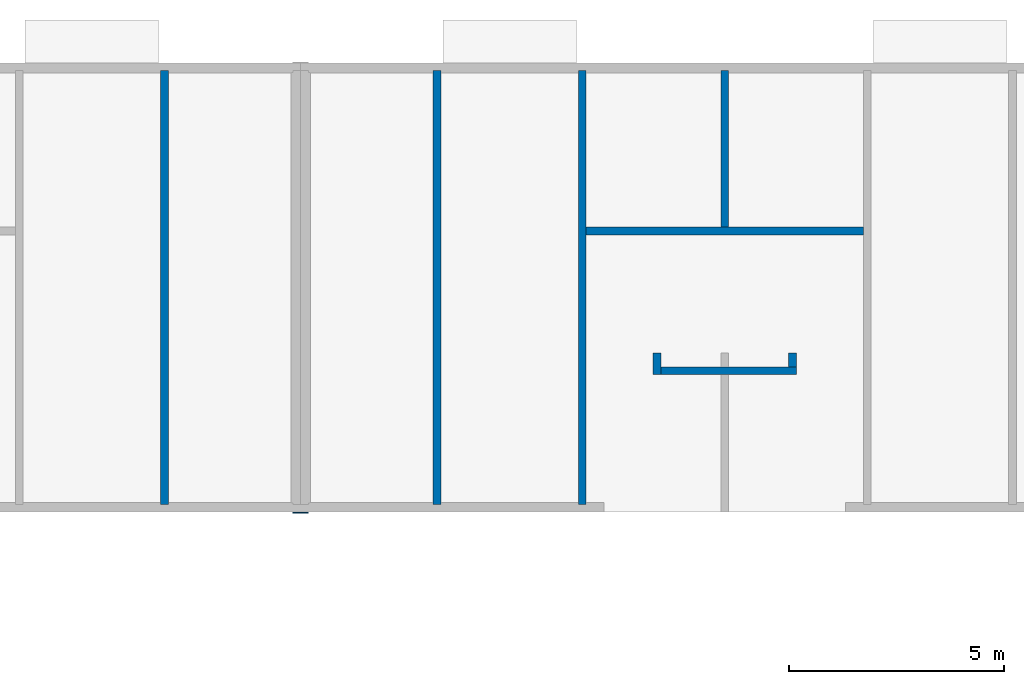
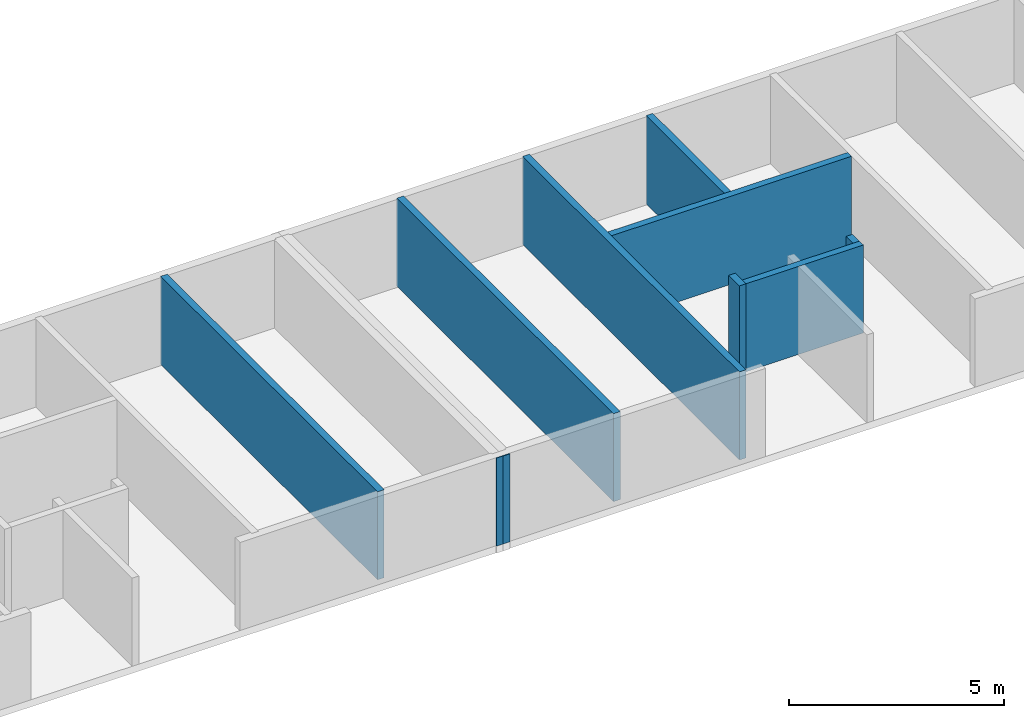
# One storey, part 2 of 9: 10 walls.
"""IFC2X3 building model written with IfcOpenShell, lengths in metres."""

import ifcopenshell
import ifcopenshell.guid

model = None  # the IFC model being written
_history = None  # IfcOwnerHistory: only IFC2X3 demands one
_inside = {}  # id of a spatial element -> (the spatial element, [elements in it])
_under = {}  # id of a project, library or spatial element -> (it, [spatial elements below it])
_declared = {}  # id of a project -> (the project, [libraries it declares])
_typed = {}  # id of a type object -> (the type object, [elements of that type])
_made_of = {}  # id of a material, layer set ... -> (it, [elements and type objects made of it])


def new_model(schema):
    """Start an empty IFC model of exactly this schema.

    Asked for "IFC4X3", IfcOpenShell would pick the latest addendum, in which some entities
    have other attributes; the version numbers below select the first issue.
    IFC2X3 requires an IfcOwnerHistory on every rooted entity: one is made here for all.
    """
    global model, _history
    if schema == "IFC4X3":
        model = ifcopenshell.file(schema_version=(4, 3, 0, 0))
    else:
        model = ifcopenshell.file(schema=schema)
    _inside.clear()
    _under.clear()
    _declared.clear()
    _typed.clear()
    _made_of.clear()
    _history = None
    if model.schema == "IFC2X3":
        org = make("IfcOrganization", Name="unknown")
        user = make(
            "IfcPersonAndOrganization",
            ThePerson=make("IfcPerson", FamilyName="unknown"),
            TheOrganization=org,
        )
        app = make(
            "IfcApplication",
            ApplicationDeveloper=org,
            Version="unknown",
            ApplicationFullName="unknown",
            ApplicationIdentifier="unknown",
        )
        _history = make(
            "IfcOwnerHistory",
            OwningUser=user,
            OwningApplication=app,
            ChangeAction="ADDED",
            CreationDate=0,
        )
    return model


def make(cls, **values):
    """One entity of the class cls with the attributes given. An attribute that is None is left unset."""
    return model.create_entity(
        cls, **{name: value for name, value in values.items() if value is not None}
    )


def rooted(cls, **values):
    """An entity with a GlobalId (a new one), such as an element, a storey or a relation."""
    return make(cls, GlobalId=ifcopenshell.guid.new(), OwnerHistory=_history, **values)


def si_unit(unit_type, name, prefix=None):
    """IfcSIUnit, for example si_unit("LENGTHUNIT", "METRE", prefix="MILLI")."""
    return make("IfcSIUnit", UnitType=unit_type, Prefix=prefix, Name=name)


def assignment(units):
    """IfcUnitAssignment: the units of a project."""
    return None if units is None else make("IfcUnitAssignment", Units=units)


def point(xyz):
    """IfcCartesianPoint."""
    return None if xyz is None else make("IfcCartesianPoint", Coordinates=xyz)


def direction(xyz):
    """IfcDirection."""
    return None if xyz is None else make("IfcDirection", DirectionRatios=xyz)


def frame(location, z_axis=None, x_axis=None):
    """IfcAxis2Placement3D, a coordinate frame: its origin and axes. An axis left out is left unset."""
    return make(
        "IfcAxis2Placement3D",
        Location=point(location),
        Axis=direction(z_axis),
        RefDirection=direction(x_axis),
    )


def frame_2d(location, x_axis=None):
    """IfcAxis2Placement2D, a coordinate frame in the plane: its origin and x axis."""
    return make(
        "IfcAxis2Placement2D", Location=point(location), RefDirection=direction(x_axis)
    )


def origin():
    """The frame at (0, 0, 0) with its axes left unset."""
    return frame((0.0, 0.0, 0.0))


def origin_with_axes():
    """The frame at (0, 0, 0) with the z axis (0, 0, 1) and the x axis (1, 0, 0) written out."""
    return frame((0.0, 0.0, 0.0), z_axis=(0.0, 0.0, 1.0), x_axis=(1.0, 0.0, 0.0))


def place(relative_to, where):
    """IfcLocalPlacement: puts the frame where relative to a parent placement (None: the world)."""
    return make(
        "IfcLocalPlacement", PlacementRelTo=relative_to, RelativePlacement=where
    )


def context(
    kind, dimensions, precision=None, world=None, true_north=None, identifier=None
):
    """IfcGeometricRepresentationContext, for example the 3D "Model" context."""
    return make(
        "IfcGeometricRepresentationContext",
        ContextIdentifier=identifier,
        ContextType=kind,
        CoordinateSpaceDimension=dimensions,
        Precision=precision,
        WorldCoordinateSystem=world,
        TrueNorth=true_north,
    )


def project(units=None, contexts=None):
    """IfcProject with its units and contexts."""
    return rooted(
        "IfcProject",
        Name="project",
        RepresentationContexts=contexts,
        UnitsInContext=assignment(units),
    )


def spatial(cls, under=None, at=None, **own):
    """A site, building, storey or space (cls), placed at a placement, below another one or the project."""
    s = rooted(cls, ObjectPlacement=at, **own)
    if under is not None:
        _under.setdefault(under.id(), (under, []))[1].append(s)
    return s


def profile(cls, at=None, kind="AREA", **sizes):
    """A parametric profile (cls). Its sizes go by their IFC names, for example OverallWidth=200.0."""
    return make(cls, ProfileType=kind, Position=at, **sizes)


def rectangle(**sizes):
    """IfcRectangleProfileDef."""
    return profile("IfcRectangleProfileDef", **sizes)


def extrude(swept, where, along, depth):
    """IfcExtrudedAreaSolid: the profile swept, set in the frame where, extruded along a direction by depth."""
    return make(
        "IfcExtrudedAreaSolid",
        SweptArea=swept,
        Position=where,
        ExtrudedDirection=direction(along),
        Depth=depth,
    )


def shape(context_of_items, identifier, shape_type, items):
    """IfcShapeRepresentation: the items that make up one representation, for example the "Body"."""
    return make(
        "IfcShapeRepresentation",
        ContextOfItems=context_of_items,
        RepresentationIdentifier=identifier,
        RepresentationType=shape_type,
        Items=items,
    )


def made_of(thing, what):
    """Note that an element or type object is made of a material, layer set ...; save() writes the relation."""
    if what is not None:
        _made_of.setdefault(what.id(), (what, []))[1].append(thing)
    return thing


def element(
    cls,
    number,
    at=None,
    inside=None,
    cuts=None,
    type_object=None,
    material=None,
    context=None,
    identifier="Body",
    shape_type=None,
    held_by="IfcProductDefinitionShape",
    body=None,
    shapes=None,
    **own,
):
    """One element of the class cls, such as IfcWall. Its Tag is "e" and its number.

    at: its placement. inside: the storey or other place that contains it. cuts: it is an
    opening in that element (IfcRelVoidsElement). A single representation is given by context,
    identifier, shape_type and body (its items); several are given by shapes. held_by: the class
    of the entity that holds the representations. save() writes the other relations.
    """
    e = rooted(cls, Tag="e%d" % number, ObjectPlacement=at, **own)
    if body is not None:
        shapes = [shape(context, identifier, shape_type, body)]
    if shapes is not None:
        e.Representation = make(held_by, Representations=shapes)
    if inside is not None:
        _inside.setdefault(inside.id(), (inside, []))[1].append(e)
    if cuts is not None:
        rooted(
            "IfcRelVoidsElement", RelatingBuildingElement=cuts, RelatedOpeningElement=e
        )
    if type_object is not None:
        _typed.setdefault(type_object.id(), (type_object, []))[1].append(e)
    return made_of(e, material)


def aggregate(whole, parts):
    """IfcRelAggregates: a whole, such as a stair, and the parts it consists of."""
    return rooted("IfcRelAggregates", RelatingObject=whole, RelatedObjects=parts)


def save(model, path):
    """Write the relations noted so far, then the file.

    IfcRelAggregates (storeys below a building ...), IfcRelContainedInSpatialStructure (elements
    in a storey), IfcRelDefinesByType, IfcRelAssociatesMaterial and IfcRelDeclares: one each for
    every whole, place, type object, material and project.
    """
    for whole, parts in _under.values():
        aggregate(whole, parts)
    for where, things in _inside.values():
        rooted(
            "IfcRelContainedInSpatialStructure",
            RelatedElements=things,
            RelatingStructure=where,
        )
    for kind, things in _typed.values():
        rooted("IfcRelDefinesByType", RelatedObjects=things, RelatingType=kind)
    for what, things in _made_of.values():
        rooted("IfcRelAssociatesMaterial", RelatedObjects=things, RelatingMaterial=what)
    for by, libraries in _declared.values():
        rooted("IfcRelDeclares", RelatingContext=by, RelatedDefinitions=libraries)
    model.write(path)


model = new_model("IFC2X3")

# Units and contexts
model_context = context("Model", 3, precision=1e-06, world=origin())
ifc_project = project(units=[si_unit("LENGTHUNIT", "METRE"), si_unit("PLANEANGLEUNIT", "RADIAN")], contexts=[model_context])

# Site, building, storey
site = spatial("IfcSite", under=ifc_project, CompositionType="ELEMENT")
building = spatial("IfcBuilding", under=site, CompositionType="ELEMENT")
storey = spatial("IfcBuildingStorey", under=building, Name="r+2", CompositionType="ELEMENT", Elevation=5.4)

# Walls
placement = place(None, origin())
wall_1_placement = place(placement, frame((29.80499999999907, 6.650077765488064, 5.4), z_axis=(0.0, 0.0, 1.0), x_axis=(0.0, 1.0, 0.0)))
element("IfcWall", 1, at=wall_1_placement, inside=storey, context=model_context, shape_type="SweptSolid", body=[
    extrude(rectangle(XDim=3.639999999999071, YDim=0.18, at=frame_2d((1.819999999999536, 0.09), x_axis=(1.0, 0.0)), kind="CURVE"), origin_with_axes(), (0.0, 0.0, 1.0), 2.5),
])
for number, where, z_axis, x_axis in (
    (2, (26.49000006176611, 0.200077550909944, 5.4), (0.0, 0.0, 1.0), (0.0, 1.0, 0.0)),
    (3, (23.10999999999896, 0.200077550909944, 5.4), (0.0, 0.0, 1.0), (0.0, 1.0, 0.0)),
):
    element("IfcWall", number, at=place(placement, frame(where, z_axis=z_axis, x_axis=x_axis)), inside=storey, context=model_context, shape_type="SweptSolid", body=[
        extrude(rectangle(XDim=10.090000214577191, YDim=0.18, at=frame_2d((5.045000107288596, 0.09), x_axis=(1.0, 0.0)), kind="CURVE"), origin_with_axes(), (0.0, 0.0, 1.0), 2.5),
    ])
wall_2_placement = place(placement, frame((32.939999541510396, 6.650077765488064, 5.4), z_axis=(0.0, 0.0, 1.0), x_axis=(-1.0, 0.0, 0.0)))
element("IfcWall", 4, at=wall_2_placement, inside=storey, context=model_context, shape_type="SweptSolid", body=[
    extrude(rectangle(XDim=6.449999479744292, YDim=0.18, at=frame_2d((3.224999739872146, 0.09), x_axis=(1.0, 0.0)), kind="CURVE"), origin_with_axes(), (0.0, 0.0, 1.0), 2.5),
])
wall_3_placement = place(placement, frame((28.22999951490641, 3.220077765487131, 5.4), z_axis=(0.0, 0.0, 1.0), x_axis=(0.0, 1.0, 0.0)))
element("IfcWall", 5, at=wall_3_placement, inside=storey, context=model_context, shape_type="SweptSolid", body=[
    extrude(rectangle(XDim=0.5, YDim=0.18, at=frame_2d((0.25, 0.09), x_axis=(1.0, 0.0)), kind="CURVE"), origin_with_axes(), (0.0, 0.0, 1.0), 2.5),
])
wall_4_placement = place(placement, frame((31.19999951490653, 3.720077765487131, 5.4), z_axis=(0.0, 0.0, 1.0), x_axis=(0.0, -1.0, 0.0)))
element("IfcWall", 6, at=wall_4_placement, inside=storey, context=model_context, shape_type="SweptSolid", body=[
    extrude(rectangle(XDim=0.32, YDim=0.18, at=frame_2d((0.16, 0.09), x_axis=(1.0, 0.0)), kind="CURVE"), origin_with_axes(), (0.0, 0.0, 1.0), 2.5),
])
wall_5_placement = place(placement, frame((31.37999951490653, 3.400077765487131, 5.4), z_axis=(0.0, 0.0, 1.0), x_axis=(-1.0, 0.0, 0.0)))
element("IfcWall", 7, at=wall_5_placement, inside=storey, context=model_context, shape_type="SweptSolid", body=[
    extrude(rectangle(XDim=3.150000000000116, YDim=0.18, at=frame_2d((1.575000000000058, 0.09), x_axis=(1.0, 0.0)), kind="CURVE"), origin_with_axes(), (0.0, 0.0, 1.0), 2.5),
])
wall_6_placement = place(placement, frame((16.77000000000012, 0.200077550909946, 5.4), z_axis=(0.0, 0.0, 1.0), x_axis=(0.0, 1.0, 0.0)))
element("IfcWall", 8, at=wall_6_placement, inside=storey, context=model_context, shape_type="SweptSolid", body=[
    extrude(rectangle(XDim=10.090000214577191, YDim=0.18, at=frame_2d((5.045000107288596, 0.09), x_axis=(1.0, 0.0)), kind="CURVE"), origin_with_axes(), (0.0, 0.0, 1.0), 2.5),
])
for number, where, z_axis, x_axis in (
    (9, (19.849999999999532, 2e-15, 5.4), (0.0, 0.0, 1.0), (-1.0, 0.0, 0.0)),
    (10, (20.029999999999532, 2e-15, 5.4), (0.0, 0.0, 1.0), (-1.0, 0.0, 0.0)),
):
    element("IfcWall", number, at=place(placement, frame(where, z_axis=z_axis, x_axis=x_axis)), inside=storey, context=model_context, shape_type="SweptSolid", body=[
        extrude(rectangle(XDim=0.18, YDim=0.020162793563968, at=frame_2d((0.09, 0.010081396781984), x_axis=(1.0, 0.0)), kind="CURVE"), frame((0.0, -0.020162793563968, 0.0), z_axis=(0.0, 0.0, 1.0), x_axis=(1.0, 0.0, 0.0)), (0.0, 0.0, 1.0), 2.5),
    ])

save(model, "model.ifc")
